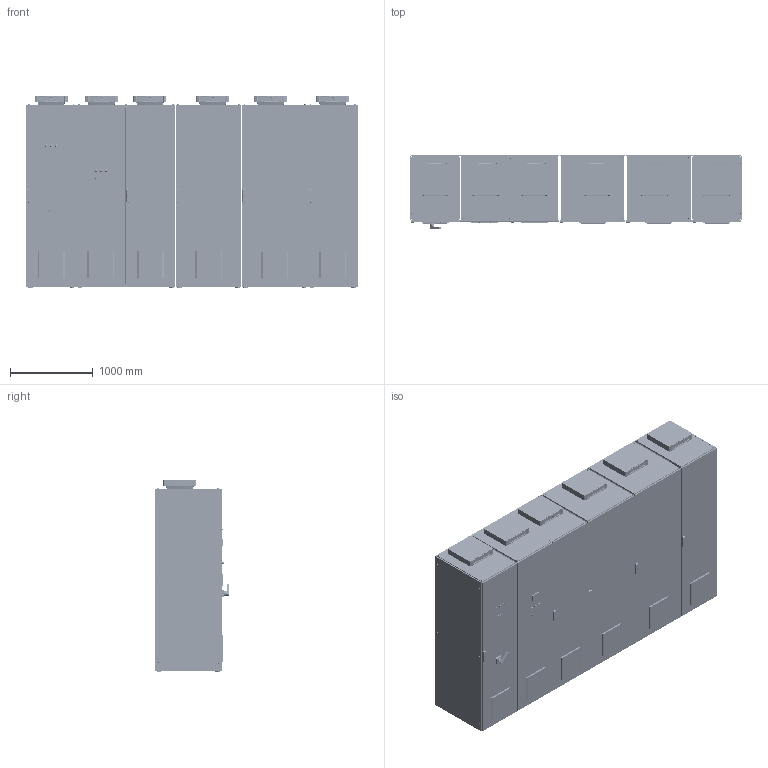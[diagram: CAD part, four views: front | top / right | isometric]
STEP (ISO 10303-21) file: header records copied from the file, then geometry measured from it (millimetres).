
FILE_DESCRIPTION(('Open CASCADE Model'),'2;1');
FILE_NAME('Open CASCADE Shape Model','2025-07-18T11:30:23',('Author'),( 'Open CASCADE'),'Open CASCADE STEP processor 7.6','Open CASCADE 7.6' ,'Unknown');
FILE_SCHEMA(('CONFIG_CONTROL_DESIGN','SHAPE_APPEARANCE_LAYER_MIM'));
Length unit declared in the file: millimetre
Products named in the file (171): S2:Boden (513); 2337422367952; S2:Chassis (536); 2337422376112; S2:Bodenblech (537); 2337422376384; S2:Bodenblech (538); S2:Bodenblech (539); 2337422374208; S2:Bodenblech (540); S2:Bodenblech (541); 2337422375568; S2:Bodenblech (542); S2:Bodenblech (543); S2:Bodenblech (544); S2:Schrankzubehör allgemein (545); 2337422369040; S2:Schrankzubehör allgemein (546); S2:Schrankzubehör allgemein (547); S2:Schrankzubehör allgemein (548); S2:Dachblech (514); 2337422373664; =3+-M2 (384); 2337422377472; =3+-M3 (385); S2:Schrankzubehör allgemein (549); 2337422392160; S2:Schrankzubehör allgemein (550); S2:Schrankzubehör allgemein (551); S2:Schrankzubehör allgemein (552); S2:Schrankzubehör allgemein (553); S2:Schrankzubehör allgemein (554); S2:Rückwand (516); 2337422485728; S2:Tür links (517); 2337422497696; S2:Schrankzubehör allgemein (384); 2337422496608; S2:Schrankzubehör allgemein (388); 2337422500144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
Assembly tree (229 placements, depth 3):
  S2:Boden (513)
    2337422367952
    S2:Chassis (536)
      2337422376112
    S2:Bodenblech (537)
      2337422376384
    S2:Bodenblech (538)
      2337422376384
    S2:Bodenblech (539)
      2337422374208
    S2:Bodenblech (540)
      2337422374208
    S2:Bodenblech (541)
      2337422375568
    S2:Bodenblech (542)
      2337422375568
    S2:Bodenblech (543)
      2337422375568
    S2:Bodenblech (544)
      2337422375568
    S2:Schrankzubehör allgemein (545)
      2337422369040
    S2:Schrankzubehör allgemein (546)
      2337422369040
    S2:Schrankzubehör allgemein (547)
      2337422369040
    S2:Schrankzubehör allgemein (548)
      2337422369040
  S2:Dachblech (514)
    2337422373664
    =3+-M2 (384)
      2337422377472
    =3+-M3 (385)
      2337422377472
    S2:Schrankzubehör allgemein (549)
      2337422392160
    S2:Schrankzubehör allgemein (550)
      2337422392160
    S2:Schrankzubehör allgemein (551)
      2337422392160
    S2:Schrankzubehör allgemein (552)
      2337422392160
    S2:Schrankzubehör allgemein (553)
      2337422392160
    S2:Schrankzubehör allgemein (554)
      2337422392160
  S2:Rückwand (516)
    2337422485728
  S2:Tür links (517)
    2337422497696
    S2:Schrankzubehör allgemein (384)
      2337422496608
    S2:Schrankzubehör allgemein (388)
      2337422500144
    S2:Schrankzubehör allgemein (391)
      2337422496880
  S2:Tür rechts (518)
    2337422502320
    S2:Schrankzubehör allgemein (555)
      2337422515648
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Bounding box: 4005 x 901.98 x 2314 mm (x, y, z)
Volume: 174607707.8 mm3; surface area: 70797177.7 mm2
Topology: 151 solids, 4823 shells, 21541 faces, 61944 edges, 46100 vertices
Faces by surface type: plane 16811, cylinder 3668, cone 754, torus 210, bspline 58, sphere 26, revolution 14
Full cylindrical faces by diameter (mm): 7 x2, 7.4 x30, 8 x58, 9.28 x30, 10 x36, 11.2 x4, 11.22 x10, 11.25 x10, 12 x22, 13 x24, 14 x36, 16 x25, 16.1 x5, 19.8 x5, 21 x22, 22 x20, 24 x22, 200 x6
Entity records: 553354 total; most frequent: CARTESIAN_POINT 114120, DIRECTION 86503, ORIENTED_EDGE 81860, EDGE_CURVE 48138, LINE 40643, VECTOR 40643, VERTEX_POINT 36846, AXIS2_PLACEMENT_3D 22923
